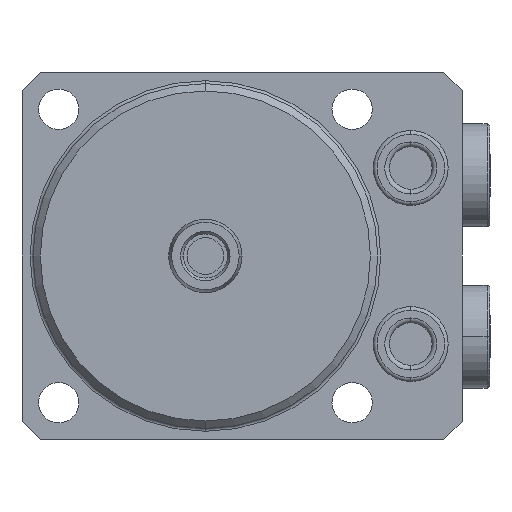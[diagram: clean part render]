
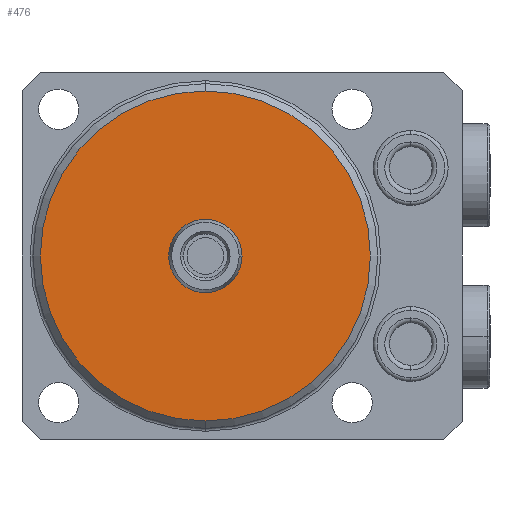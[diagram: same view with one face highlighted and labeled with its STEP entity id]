
A CAD part, front view. The second image highlights one B-rep face of the part: STEP entity #476.
In plain terms, the highlighted planar face has unit normal (0, -1, 0) as drawn and (0, 1, 0) by its records, which use the part's own axes.
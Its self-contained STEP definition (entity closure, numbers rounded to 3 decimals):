
#210=PLANE('',#4892);
#320=FACE_BOUND('',#1134,.F.);
#321=FACE_BOUND('',#1135,.F.);
#476=ADVANCED_FACE('',(#320,#321),#210,.T.);
#1134=EDGE_LOOP('',(#2024,#2025));
#1135=EDGE_LOOP('',(#2026,#2027));
#1420=CIRCLE('',#4778,5.);
#1475=CIRCLE('',#4856,22.5);
#1494=CIRCLE('',#4890,5.);
#1495=CIRCLE('',#4891,22.5);
#2024=ORIENTED_EDGE('',*,*,#3694,.T.);
#2025=ORIENTED_EDGE('',*,*,#3514,.T.);
#2026=ORIENTED_EDGE('',*,*,#3695,.T.);
#2027=ORIENTED_EDGE('',*,*,#3602,.T.);
#3074=VERTEX_POINT('',#6988);
#3075=VERTEX_POINT('',#6989);
#3146=VERTEX_POINT('',#7176);
#3147=VERTEX_POINT('',#7177);
#3514=EDGE_CURVE('',#3074,#3075,#1420,.T.);
#3602=EDGE_CURVE('',#3146,#3147,#1475,.T.);
#3694=EDGE_CURVE('',#3075,#3074,#1494,.T.);
#3695=EDGE_CURVE('',#3147,#3146,#1495,.T.);
#4778=AXIS2_PLACEMENT_3D('',#6987,#5442,#5443);
#4856=AXIS2_PLACEMENT_3D('',#7175,#5630,#5631);
#4890=AXIS2_PLACEMENT_3D('',#7438,#5746,#5747);
#4891=AXIS2_PLACEMENT_3D('',#7439,#5748,#5749);
#4892=AXIS2_PLACEMENT_3D('',#7440,#5750,#5751);
#5442=DIRECTION('',(0.,1.,0.));
#5443=DIRECTION('',(0.,0.,1.));
#5630=DIRECTION('',(0.,-1.,0.));
#5631=DIRECTION('',(0.,0.,1.));
#5746=DIRECTION('',(0.,1.,0.));
#5747=DIRECTION('',(0.,0.,1.));
#5748=DIRECTION('',(0.,-1.,0.));
#5749=DIRECTION('',(0.,0.,1.));
#5750=DIRECTION('',(0.,1.,0.));
#5751=DIRECTION('',(0.,0.,1.));
#6987=CARTESIAN_POINT('',(0.,-39.5,0.));
#6988=CARTESIAN_POINT('',(0.,-39.5,-5.));
#6989=CARTESIAN_POINT('',(0.,-39.5,5.));
#7175=CARTESIAN_POINT('',(0.,-39.5,0.));
#7176=CARTESIAN_POINT('',(0.,-39.5,-22.5));
#7177=CARTESIAN_POINT('',(0.,-39.5,22.5));
#7438=CARTESIAN_POINT('',(0.,-39.5,0.));
#7439=CARTESIAN_POINT('',(0.,-39.5,0.));
#7440=CARTESIAN_POINT('',(0.,-39.5,0.));
